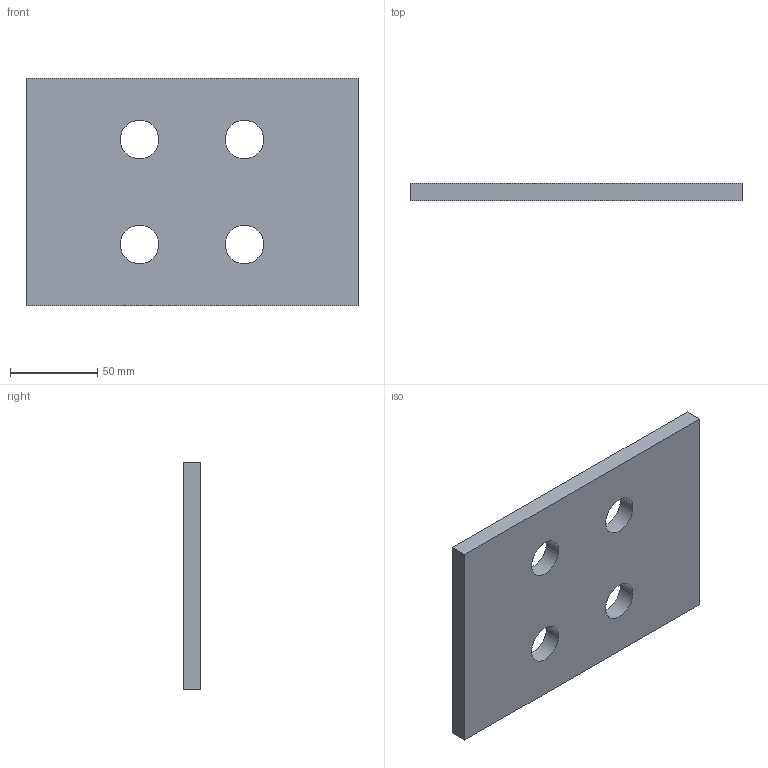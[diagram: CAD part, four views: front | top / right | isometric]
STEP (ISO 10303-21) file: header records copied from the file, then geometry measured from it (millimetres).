
FILE_DESCRIPTION(('Open CASCADE Model'),'2;1');
FILE_NAME('Open CASCADE Shape Model','2026-09-19T12:55:12',('Author'),( 'Open CASCADE'),'Open CASCADE STEP processor 7.9','Open CASCADE 7.9' ,'Unknown');
FILE_SCHEMA(('AUTOMOTIVE_DESIGN { 1 0 10303 214 1 1 1 1 }'));
Length unit declared in the file: millimetre
Products named in the file (1): Open CASCADE STEP translator 7.9 62
Bounding box: 190 x 10 x 130 mm (x, y, z)
Volume: 231794.7 mm3; surface area: 55523.5 mm2
Topology: 1 solids, 1 shells, 10 faces, 24 edges, 16 vertices
Faces by surface type: plane 6, cylinder 4
Full cylindrical faces by diameter (mm): 22 x4
Entity records: 634 total; most frequent: DIRECTION 102, CARTESIAN_POINT 99, LINE 56, VECTOR 56, ORIENTED_EDGE 48, PCURVE 48, DEFINITIONAL_REPRESENTATION 48, EDGE_CURVE 24
